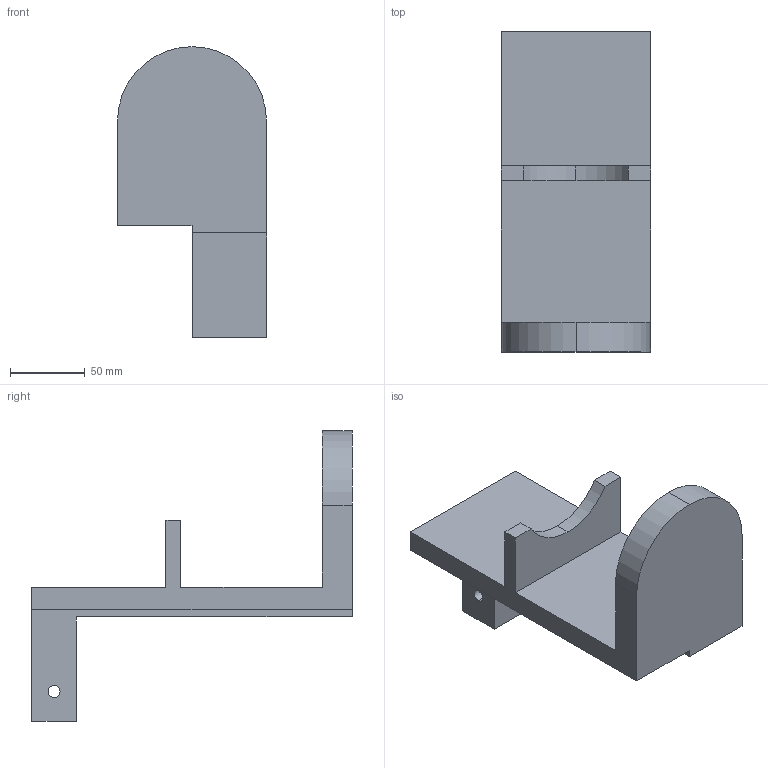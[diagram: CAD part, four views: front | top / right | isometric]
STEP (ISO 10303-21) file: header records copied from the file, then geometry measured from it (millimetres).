
FILE_DESCRIPTION (( 'STEP AP214' ), '1' );
FILE_NAME ('Porta vaso.STEP', '2019-05-12T02:00:08', ( '' ), ( '' ), 'SwSTEP 2.0', 'SolidWorks 2018', '' );
FILE_SCHEMA (( 'AUTOMOTIVE_DESIGN' ));
Length unit declared in the file: millimetre
Products named in the file (1): Porta vaso
Bounding box: 100 x 215 x 195 mm (x, y, z)
Volume: 680154.5 mm3; surface area: 99499 mm2
Topology: 1 solids, 1 shells, 28 faces, 72 edges, 48 vertices
Faces by surface type: plane 18, cylinder 10
Entity records: 894 total; most frequent: DIRECTION 150, CARTESIAN_POINT 149, ORIENTED_EDGE 144, EDGE_CURVE 72, VECTOR 52, LINE 52, AXIS2_PLACEMENT_3D 49, VERTEX_POINT 48
